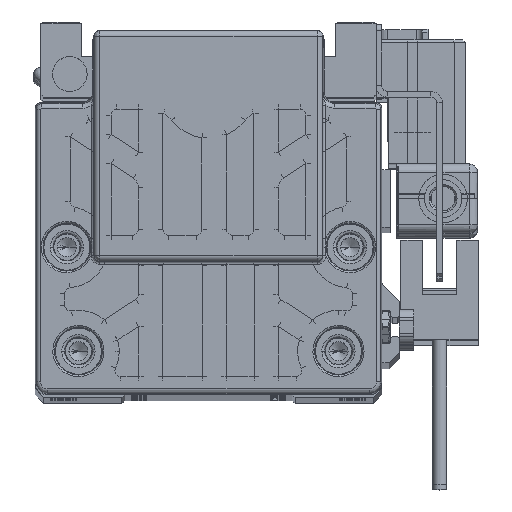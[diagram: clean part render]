
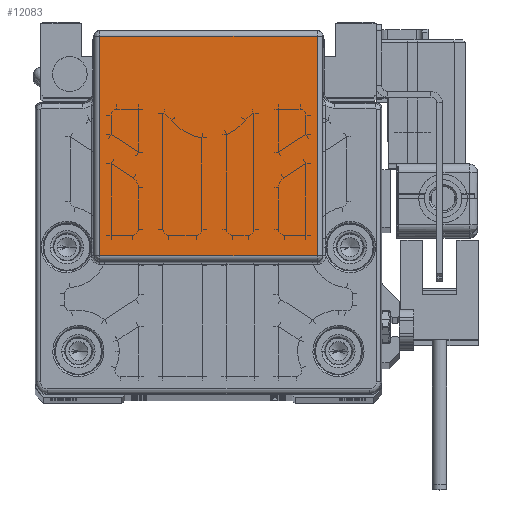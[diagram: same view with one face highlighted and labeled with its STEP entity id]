
A CAD part, top view. The second image highlights one B-rep face of the part: STEP entity #12083.
In plain terms, the highlighted planar face has unit normal (0, 0, 1) as drawn and (0, 0, -1) by its records, which use the part's own axes.
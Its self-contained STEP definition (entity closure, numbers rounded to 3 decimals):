
#252 = DIRECTION ( 'NONE',  ( 1., 0., 0. ) ) ;
#3421 = CARTESIAN_POINT ( 'NONE',  ( 18.808, 24.518, -143. ) ) ;
#6312 = CARTESIAN_POINT ( 'NONE',  ( 19., 24.518, -143. ) ) ;
#10049 = LINE ( 'NONE', #78334, #41456 ) ;
#12083 = ADVANCED_FACE ( 'NONE', ( #28483 ), #53289, .T. ) ;
#15002 = EDGE_CURVE ( 'NONE', #46865, #35560, #21143, .T. ) ;
#15087 = EDGE_LOOP ( 'NONE', ( #36311, #61199, #33221, #46136 ) ) ;
#17375 = CARTESIAN_POINT ( 'NONE',  ( -18.808, 24.518, -143. ) ) ;
#20349 = CARTESIAN_POINT ( 'NONE',  ( 18.808, 24.5, -143. ) ) ;
#21143 = LINE ( 'NONE', #20349, #59033 ) ;
#21624 = CARTESIAN_POINT ( 'NONE',  ( 18.808, 62.447, -143. ) ) ;
#26097 = VECTOR ( 'NONE', #41891, 1000. ) ;
#28483 = FACE_OUTER_BOUND ( 'NONE', #15087, .T. ) ;
#28895 = DIRECTION ( 'NONE',  ( 0., 1., 0. ) ) ;
#33221 = ORIENTED_EDGE ( 'NONE', *, *, #46148, .F. ) ;
#35560 = VERTEX_POINT ( 'NONE', #21624 ) ;
#36311 = ORIENTED_EDGE ( 'NONE', *, *, #15002, .F. ) ;
#39074 = VERTEX_POINT ( 'NONE', #53840 ) ;
#40552 = DIRECTION ( 'NONE',  ( 1., 0., 0. ) ) ;
#40958 = AXIS2_PLACEMENT_3D ( 'NONE', #65879, #59800, #28895 ) ;
#41456 = VECTOR ( 'NONE', #40552, 1000. ) ;
#41479 = LINE ( 'NONE', #66684, #26097 ) ;
#41891 = DIRECTION ( 'NONE',  ( 0., -1., 0. ) ) ;
#42691 = EDGE_CURVE ( 'NONE', #49295, #46865, #61988, .T. ) ;
#46136 = ORIENTED_EDGE ( 'NONE', *, *, #49072, .T. ) ;
#46148 = EDGE_CURVE ( 'NONE', #39074, #49295, #41479, .T. ) ;
#46865 = VERTEX_POINT ( 'NONE', #3421 ) ;
#49072 = EDGE_CURVE ( 'NONE', #39074, #35560, #10049, .T. ) ;
#49295 = VERTEX_POINT ( 'NONE', #17375 ) ;
#53289 = PLANE ( 'NONE',  #40958 ) ;
#53840 = CARTESIAN_POINT ( 'NONE',  ( -18.808, 62.447, -143. ) ) ;
#57093 = VECTOR ( 'NONE', #252, 1000. ) ;
#59033 = VECTOR ( 'NONE', #70733, 1000. ) ;
#59800 = DIRECTION ( 'NONE',  ( 0., 0., -1. ) ) ;
#61199 = ORIENTED_EDGE ( 'NONE', *, *, #42691, .F. ) ;
#61988 = LINE ( 'NONE', #6312, #57093 ) ;
#65879 = CARTESIAN_POINT ( 'NONE',  ( 19., 24.5, -143. ) ) ;
#66684 = CARTESIAN_POINT ( 'NONE',  ( -18.808, 31., -143. ) ) ;
#70733 = DIRECTION ( 'NONE',  ( 0., 1., 0. ) ) ;
#78334 = CARTESIAN_POINT ( 'NONE',  ( 19., 62.447, -143. ) ) ;
